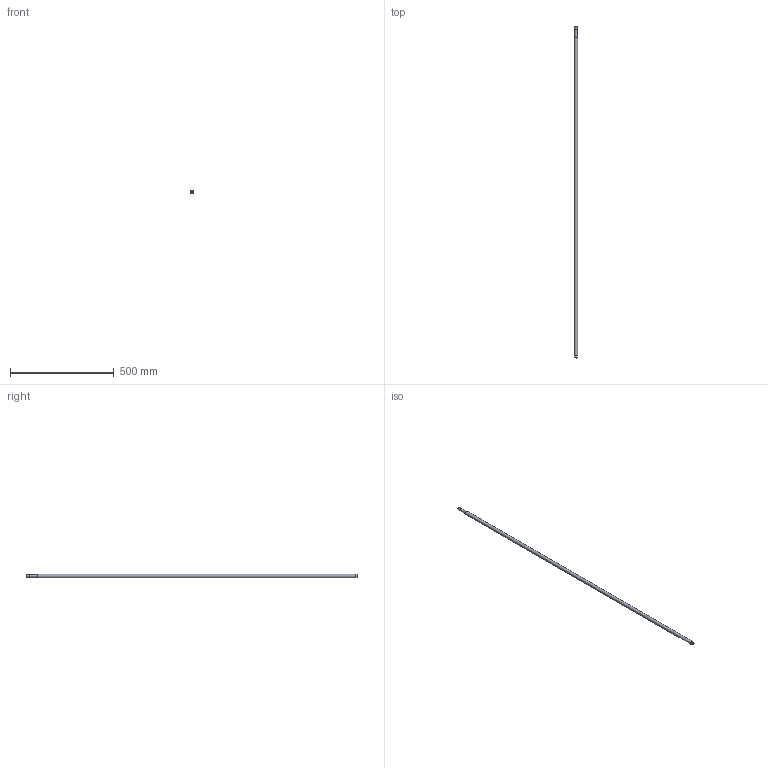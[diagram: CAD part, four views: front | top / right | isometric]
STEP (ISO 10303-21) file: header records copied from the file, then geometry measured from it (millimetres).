
FILE_DESCRIPTION(/* description */ (''),/* implementation_level */ '2;1');
FILE_NAME(/* name */ 'C:\Users\David\Desktop\stepFiles\Profilfuehrung\KUS1605x1600.stp',/* time_stamp */ '2018-06-24T15:08:48+02:00',/* author */ ('David'),/* organization */ (''),/* preprocessor_version */ 'ST-DEVELOPER v17',/* originating_system */ 'Autodesk Inventor 2019',/* authorisation */ '');
FILE_SCHEMA (('AUTOMOTIVE_DESIGN { 1 0 10303 214 3 1 1 }'));
Length unit declared in the file: millimetre
Products named in the file (1): SFU1605xvariabel
Bounding box: 16 x 1600 x 16 mm (x, y, z)
Volume: 315068.2 mm3; surface area: 79838.5 mm2
Topology: 1 solids, 1 shells, 15 faces, 34 edges, 26 vertices
Faces by surface type: plane 7, cylinder 6, cone 2
Full cylindrical faces by diameter (mm): 9.6 x1, 10 x3, 12 x1, 16 x1
Entity records: 493 total; most frequent: DIRECTION 92, CARTESIAN_POINT 76, ORIENTED_EDGE 68, AXIS2_PLACEMENT_3D 42, EDGE_CURVE 34, CIRCLE 26, VERTEX_POINT 26, EDGE_LOOP 20
